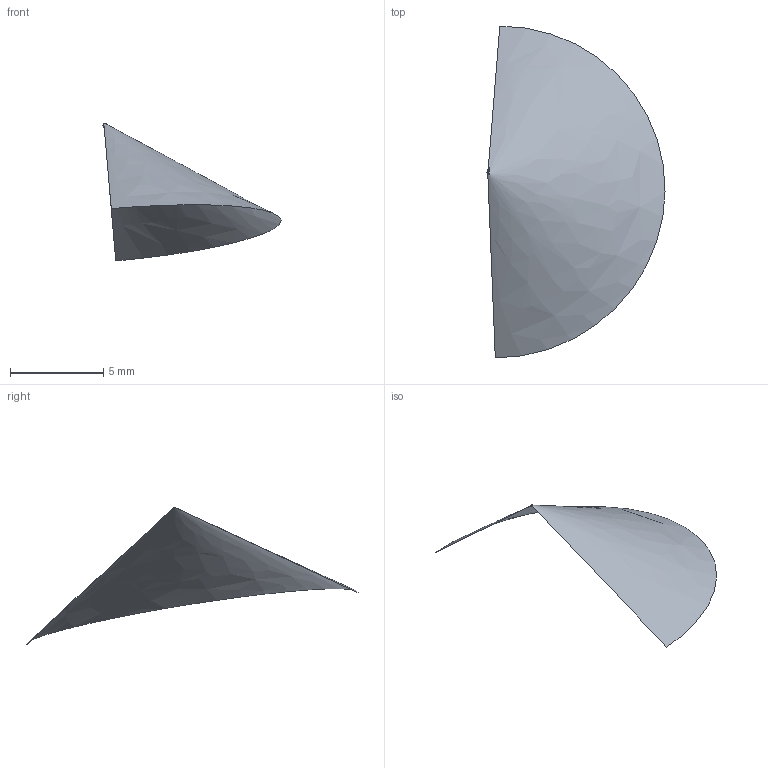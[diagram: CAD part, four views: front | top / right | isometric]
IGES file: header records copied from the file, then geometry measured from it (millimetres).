
Start section: START RECORD GO HERE
Global section: file name: i9763.igs; native system: IBM CATIA IGES - CATIA SOLUTIONS V4RELEASE 1.7 REFRESH 03; preprocessor: CATIA SOLUTIONS V4RELEASE 1.7 REFRESH 03; author: vtn; date: 990308.134912; units: millimetre
Bounding box: 9.53 x 17.78 x 7.38 mm (x, y, z)
Surface area: 153.4 mm2 (no closed solid volume)
Topology: 0 solids, 0 shells, 1 faces, 5 edges, 4 vertices
Faces by surface type: revolution 1
